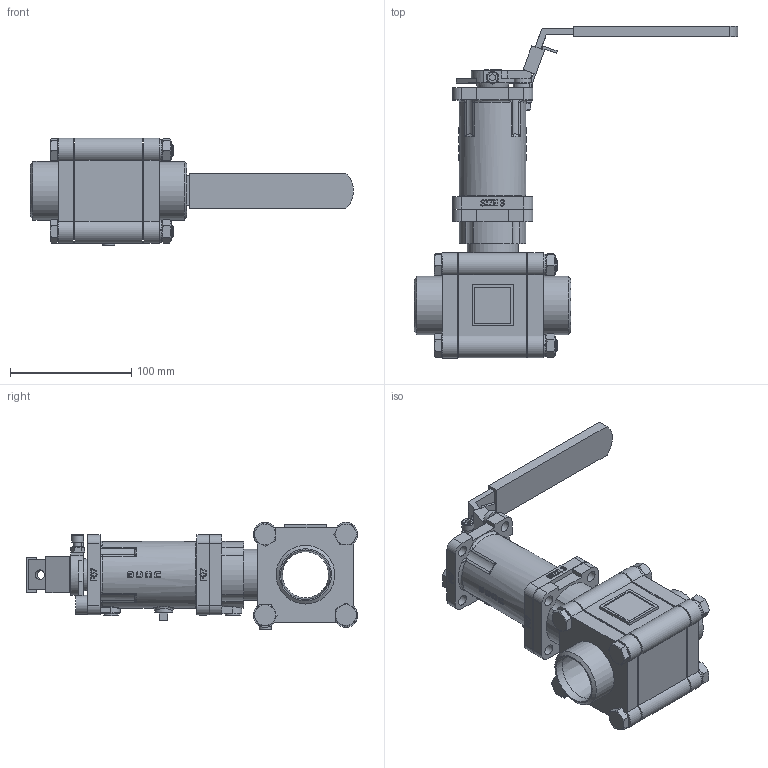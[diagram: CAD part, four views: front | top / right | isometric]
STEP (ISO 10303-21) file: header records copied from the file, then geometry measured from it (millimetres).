
FILE_DESCRIPTION(/* description */ ('Eriks item no: 14229945'),/* implementation_level */ '2;1');
FILE_NAME(/* name */ 'L:\DATA\ENG\Inventor\Econ 3D modellen\kogelkranen\7642 +7412\7642-DN40-FB + 7412-size3.stp',/* time_stamp */ '2024-01-22T16:06:13+01:00',/* author */ ('roger.thijssen'),/* organization */ (''),/* preprocessor_version */ 'ST-DEVELOPER v18',/* originating_system */ 'Autodesk Inventor 2020',/* authorisation */ '');
FILE_SCHEMA (('CONFIG_CONTROL_DESIGN'));
Length unit declared in the file: millimetre
Products named in the file (1): Ball valve + stem ext., 7642-DN40-FB + 7412-size3
Bounding box: 266.5 x 273.78 x 88.57 mm (x, y, z)
Volume: 905507.8 mm3; surface area: 169908.7 mm2
Topology: 2 solids, 2 shells, 1088 faces, 2923 edges, 1916 vertices
Faces by surface type: plane 633, cylinder 195, bspline 174, cone 69, torus 16, sphere 1
Full cylindrical faces by diameter (mm): 5 x1, 6 x1, 6.4 x1, 8 x3, 8.6 x1, 8.9 x1, 9 x13, 10 x10, 11 x12, 12 x2, 15 x1, 15.5 x1, 15.6 x4, 19.05 x1, 20 x1, 28 x1, 38 x1, 40.9 x2, 42 x2, 48.3 x2, 55 x2, 78.5 x2
Entity records: 38902 total; most frequent: CARTESIAN_POINT 11453, ORIENTED_EDGE 5826, DIRECTION 4927, EDGE_CURVE 2913, VERTEX_POINT 1916, LINE 1675, VECTOR 1675, AXIS2_PLACEMENT_3D 1626
